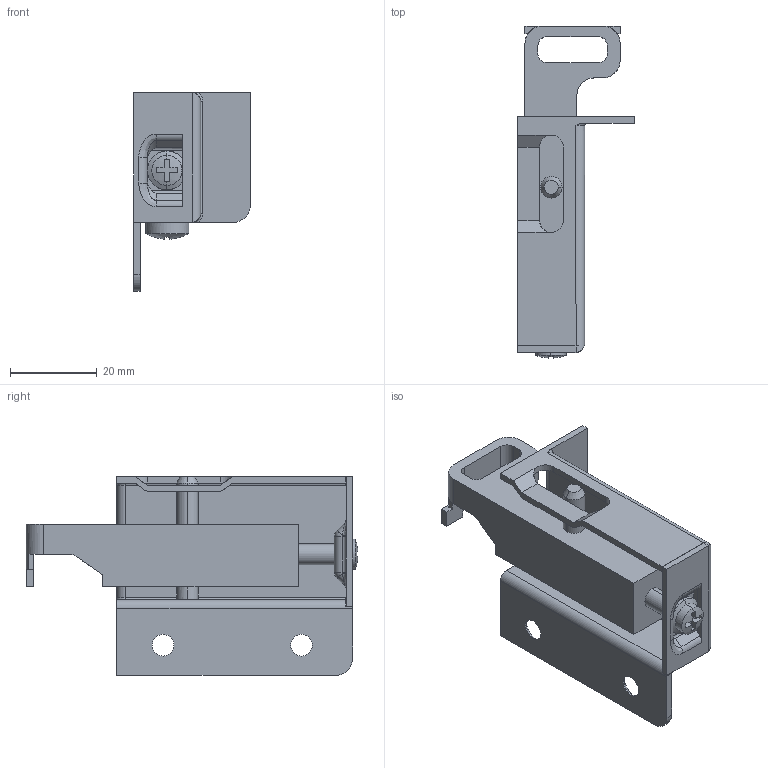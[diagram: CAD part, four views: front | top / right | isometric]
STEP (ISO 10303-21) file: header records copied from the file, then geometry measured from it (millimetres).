
FILE_DESCRIPTION (( 'STEP AP203' ), '1' );
FILE_NAME ('SH-25_links_D8251031125~0.step', '2012-05-04T07:14:00', ( 'admin' ), ( 'Hewlett-Packard Company' ), 'SwSTEP 2.0', 'SolidWorks 2011', '' );
FILE_SCHEMA (( 'CONFIG_CONTROL_DESIGN' ));
Length unit declared in the file: millimetre
Products named in the file (1): SH-25_links_D8251031125~0
Bounding box: 27 x 76.76 x 46 mm (x, y, z)
Volume: 17305.3 mm3; surface area: 14268.9 mm2
Topology: 1 solids, 1 shells, 194 faces, 533 edges, 340 vertices
Faces by surface type: plane 105, cylinder 65, cone 8, sphere 6, torus 6, bspline 4
Entity records: 6386 total; most frequent: CARTESIAN_POINT 1286, DIRECTION 1067, ORIENTED_EDGE 1066, EDGE_CURVE 533, AXIS2_PLACEMENT_3D 371, VERTEX_POINT 340, VECTOR 325, LINE 325
